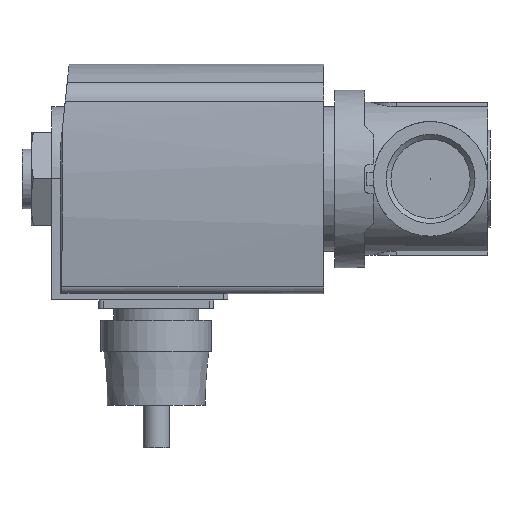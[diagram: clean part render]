
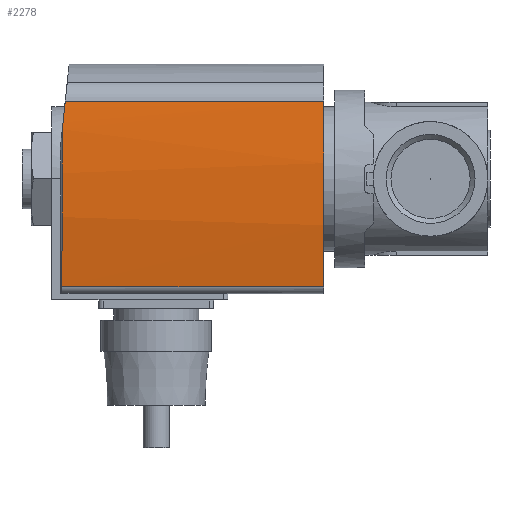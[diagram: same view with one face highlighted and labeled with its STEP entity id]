
A CAD part, left-side view. The second image highlights one B-rep face of the part: STEP entity #2278.
In plain terms, the highlighted cylindrical face has radius 130 mm (diameter 260 mm), a partial arc.
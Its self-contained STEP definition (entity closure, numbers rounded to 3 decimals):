
#50=ELLIPSE('',#2424,130.497,130.);
#51=ELLIPSE('',#2427,130.716,130.);
#100=CYLINDRICAL_SURFACE('',#2425,130.);
#144=CIRCLE('',#2426,130.);
#268=ORIENTED_EDGE('',*,*,#806,.F.);
#269=ORIENTED_EDGE('',*,*,#798,.T.);
#270=ORIENTED_EDGE('',*,*,#808,.T.);
#271=ORIENTED_EDGE('',*,*,#809,.F.);
#272=ORIENTED_EDGE('',*,*,#810,.F.);
#798=EDGE_CURVE('',#1070,#1069,#1254,.T.);
#806=EDGE_CURVE('',#1070,#1076,#50,.T.);
#808=EDGE_CURVE('',#1069,#1077,#144,.T.);
#809=EDGE_CURVE('',#1078,#1077,#1259,.T.);
#810=EDGE_CURVE('',#1076,#1078,#51,.T.);
#1069=VERTEX_POINT('',#3330);
#1070=VERTEX_POINT('',#3332);
#1076=VERTEX_POINT('',#3348);
#1077=VERTEX_POINT('',#3352);
#1078=VERTEX_POINT('',#3354);
#1254=LINE('',#3331,#1377);
#1259=LINE('',#3353,#1382);
#1377=VECTOR('',#2689,1000.);
#1382=VECTOR('',#2712,1000.);
#1492=EDGE_LOOP('',(#268,#269,#270,#271,#272));
#1662=FACE_BOUND('',#1492,.T.);
#2278=ADVANCED_FACE('',(#1662),#100,.T.);
#2424=AXIS2_PLACEMENT_3D('',#3347,#2705,#2706);
#2425=AXIS2_PLACEMENT_3D('',#3350,#2708,#2709);
#2426=AXIS2_PLACEMENT_3D('',#3351,#2710,#2711);
#2427=AXIS2_PLACEMENT_3D('',#3355,#2713,#2714);
#2689=DIRECTION('',(0.,-1.,0.));
#2705=DIRECTION('',(0.,0.996,0.087));
#2706=DIRECTION('',(0.,-0.087,0.996));
#2708=DIRECTION('',(0.,-1.,0.));
#2709=DIRECTION('',(0.,0.,-1.));
#2710=DIRECTION('',(0.,1.,0.));
#2711=DIRECTION('',(1.,0.,0.));
#2712=DIRECTION('',(0.,-1.,0.));
#2713=DIRECTION('',(0.105,0.995,0.));
#2714=DIRECTION('',(0.995,-0.105,0.));
#3330=CARTESIAN_POINT('',(-25.391,-39.4,18.646));
#3331=CARTESIAN_POINT('',(-25.391,22.6,18.646));
#3332=CARTESIAN_POINT('',(-25.391,22.281,18.646));
#3347=CARTESIAN_POINT('',(0.,33.435,-108.85));
#3348=CARTESIAN_POINT('',(11.681,22.108,20.624));
#3350=CARTESIAN_POINT('',(0.,22.6,-108.85));
#3351=CARTESIAN_POINT('',(0.,-39.4,-108.85));
#3352=CARTESIAN_POINT('',(18.286,-39.4,19.857));
#3353=CARTESIAN_POINT('',(18.286,22.6,19.857));
#3354=CARTESIAN_POINT('',(18.286,21.414,19.857));
#3355=CARTESIAN_POINT('',(0.,23.336,-108.85));
